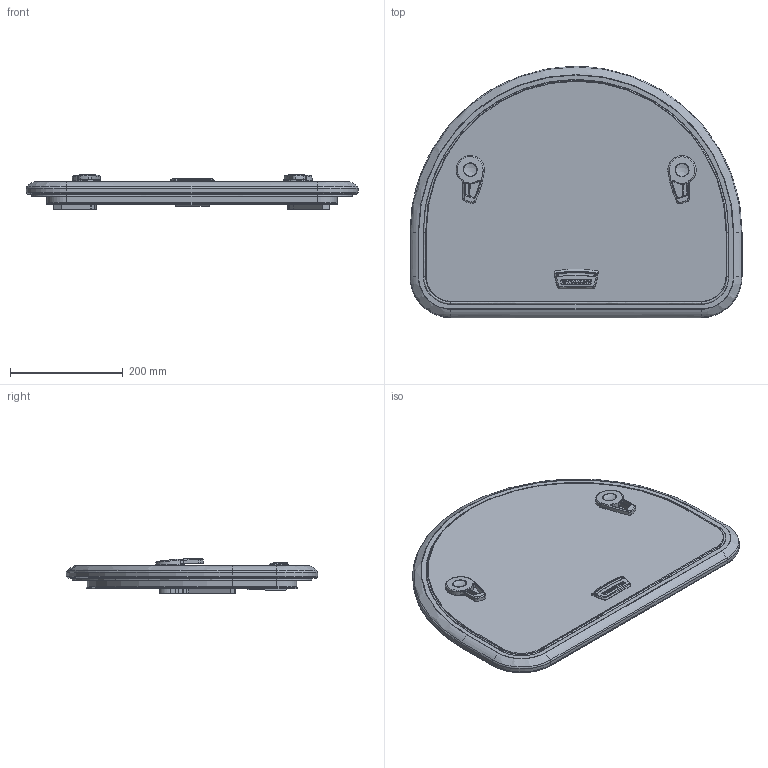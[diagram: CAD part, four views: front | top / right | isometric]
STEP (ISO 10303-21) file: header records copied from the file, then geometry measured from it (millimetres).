
FILE_DESCRIPTION((''),'2;1');
FILE_NAME('LEWMAR-HATCH-LOWPRO-51_ASM','2008-02-05T',('skennedy'),(''),'PRO/ENGINEER BY PARAMETRIC TECHNOLOGY CORPORATION, 2007030','PRO/ENGINEER BY PARAMETRIC TECHNOLOGY CORPORATION, 2007030','');
FILE_SCHEMA(('CONFIG_CONTROL_DESIGN'));
Length unit declared in the file: millimetre
Products named in the file (6): FRAME_51; 3595153X; HINGE_LEVER_LP; HANDLE_LP_LHS; HANDLE_LP_RHS; LEWMAR-HATCH-LOWPRO-51_ASM
Assembly tree (5 placements, depth 2):
  LEWMAR-HATCH-LOWPRO-51_ASM
    FRAME_51
    3595153X
    HINGE_LEVER_LP
    HANDLE_LP_LHS
    HANDLE_LP_RHS
Bounding box: 588 x 445 x 61.17 mm (x, y, z)
Volume: 3349975.6 mm3; surface area: 777548.5 mm2
Topology: 5 solids, 5 shells, 811 faces, 2044 edges, 1260 vertices
Faces by surface type: bspline 294, plane 284, cylinder 124, cone 38, torus 34, extrusion 23, sphere 14
Entity records: 36376 total; most frequent: CARTESIAN_POINT 18939, ORIENTED_EDGE 4064, DIRECTION 2769, EDGE_CURVE 2032, VERTEX_POINT 1260, AXIS2_PLACEMENT_3D 971, EDGE_LOOP 870, VECTOR 827
